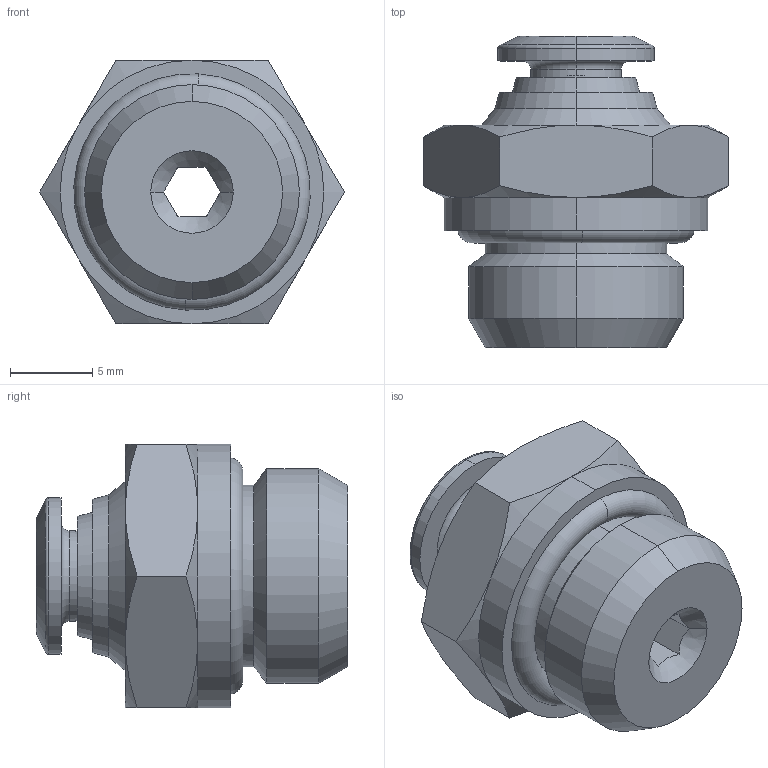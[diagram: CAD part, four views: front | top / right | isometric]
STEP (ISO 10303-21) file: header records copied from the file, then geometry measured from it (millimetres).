
FILE_DESCRIPTION (( 'STEP AP214' ), '1' );
FILE_NAME ('40020V0022A.STEP', '2024-10-21T12:34:32', ( '' ), ( '' ), 'SwSTEP 2.0', 'SolidWorks 2020', '' );
FILE_SCHEMA (( 'AUTOMOTIVE_DESIGN' ));
Length unit declared in the file: millimetre
Products named in the file (1): 40020V0022A
Bounding box: 18.48 x 18.9 x 16 mm (x, y, z)
Volume: 2337.2 mm3; surface area: 1486.9 mm2
Topology: 1 solids, 1 shells, 76 faces, 173 edges, 104 vertices
Faces by surface type: cone 30, plane 25, cylinder 15, torus 6
Entity records: 3104 total; most frequent: CARTESIAN_POINT 566, DIRECTION 369, ORIENTED_EDGE 346, EDGE_CURVE 173, AXIS2_PLACEMENT_3D 155, VERTEX_POINT 104, EDGE_LOOP 83, CIRCLE 78
